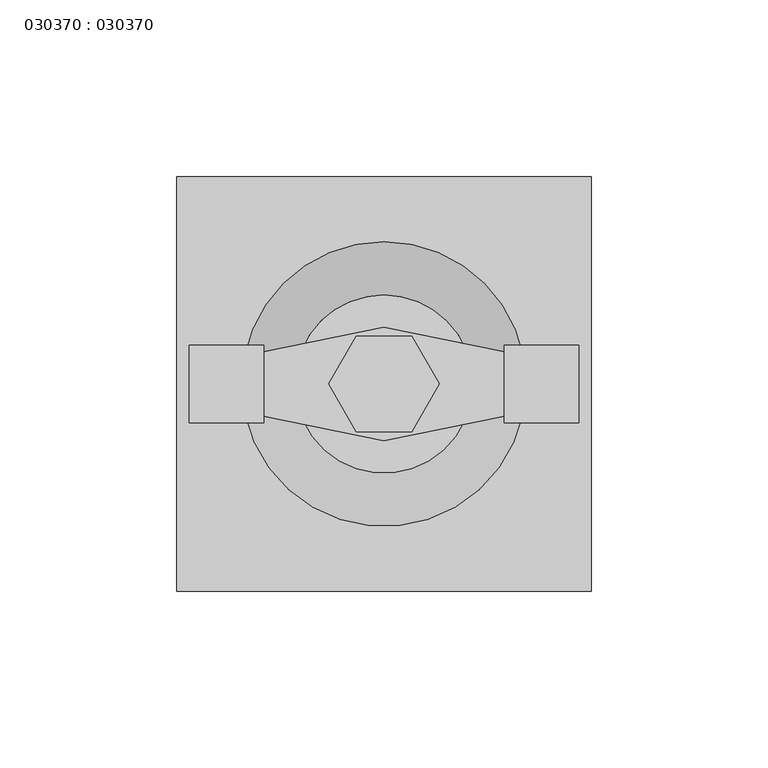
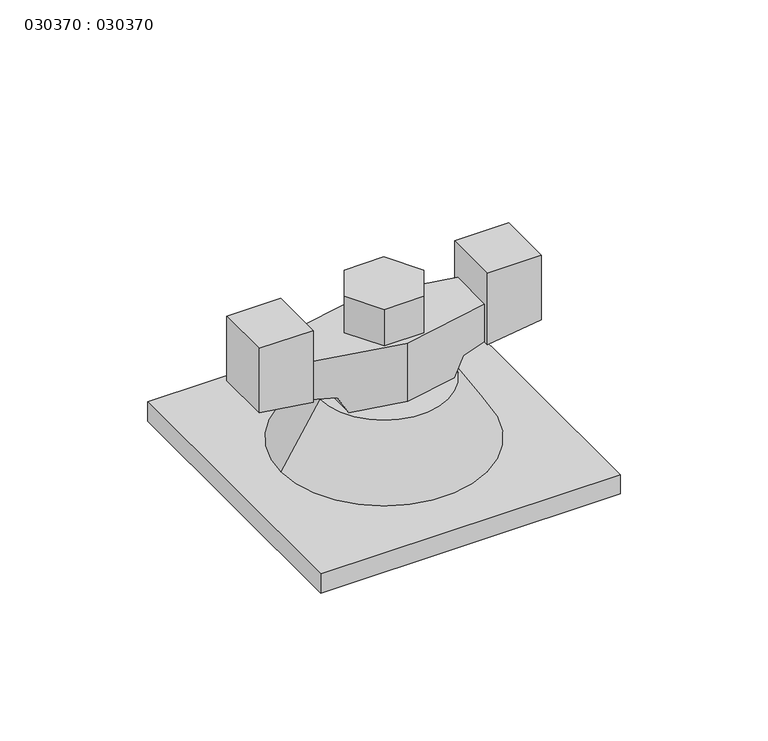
"""IFC4 building model written with IfcOpenShell, lengths in millimetres: proxy geometry, 030370 : 030370."""

import ifcopenshell
import ifcopenshell.guid

model = None  # the IFC model being written
_history = None  # IfcOwnerHistory: only IFC2X3 demands one
_inside = {}  # id of a spatial element -> (the spatial element, [elements in it])
_under = {}  # id of a project, library or spatial element -> (it, [spatial elements below it])
_declared = {}  # id of a project -> (the project, [libraries it declares])
_typed = {}  # id of a type object -> (the type object, [elements of that type])
_made_of = {}  # id of a material, layer set ... -> (it, [elements and type objects made of it])


def new_model(schema):
    """Start an empty IFC model of exactly this schema.

    Asked for "IFC4X3", IfcOpenShell would pick the latest addendum, in which some entities
    have other attributes; the version numbers below select the first issue.
    IFC2X3 requires an IfcOwnerHistory on every rooted entity: one is made here for all.
    """
    global model, _history
    if schema == "IFC4X3":
        model = ifcopenshell.file(schema_version=(4, 3, 0, 0))
    else:
        model = ifcopenshell.file(schema=schema)
    _inside.clear()
    _under.clear()
    _declared.clear()
    _typed.clear()
    _made_of.clear()
    _history = None
    if model.schema == "IFC2X3":
        org = make("IfcOrganization", Name="unknown")
        user = make(
            "IfcPersonAndOrganization",
            ThePerson=make("IfcPerson", FamilyName="unknown"),
            TheOrganization=org,
        )
        app = make(
            "IfcApplication",
            ApplicationDeveloper=org,
            Version="unknown",
            ApplicationFullName="unknown",
            ApplicationIdentifier="unknown",
        )
        _history = make(
            "IfcOwnerHistory",
            OwningUser=user,
            OwningApplication=app,
            ChangeAction="ADDED",
            CreationDate=0,
        )
    return model


def make(cls, **values):
    """One entity of the class cls with the attributes given. An attribute that is None is left unset."""
    return model.create_entity(
        cls, **{name: value for name, value in values.items() if value is not None}
    )


def rooted(cls, **values):
    """An entity with a GlobalId (a new one), such as an element, a storey or a relation."""
    return make(cls, GlobalId=ifcopenshell.guid.new(), OwnerHistory=_history, **values)


def si_unit(unit_type, name, prefix=None):
    """IfcSIUnit, for example si_unit("LENGTHUNIT", "METRE", prefix="MILLI")."""
    return make("IfcSIUnit", UnitType=unit_type, Prefix=prefix, Name=name)


def assignment(units):
    """IfcUnitAssignment: the units of a project."""
    return None if units is None else make("IfcUnitAssignment", Units=units)


def point(xyz):
    """IfcCartesianPoint."""
    return None if xyz is None else make("IfcCartesianPoint", Coordinates=xyz)


def direction(xyz):
    """IfcDirection."""
    return None if xyz is None else make("IfcDirection", DirectionRatios=xyz)


def frame(location, z_axis=None, x_axis=None):
    """IfcAxis2Placement3D, a coordinate frame: its origin and axes. An axis left out is left unset."""
    return make(
        "IfcAxis2Placement3D",
        Location=point(location),
        Axis=direction(z_axis),
        RefDirection=direction(x_axis),
    )


def origin():
    """The frame at (0, 0, 0) with its axes left unset."""
    return frame((0.0, 0.0, 0.0))


def place(relative_to, where):
    """IfcLocalPlacement: puts the frame where relative to a parent placement (None: the world)."""
    return make(
        "IfcLocalPlacement", PlacementRelTo=relative_to, RelativePlacement=where
    )


def context(
    kind, dimensions, precision=None, world=None, true_north=None, identifier=None
):
    """IfcGeometricRepresentationContext, for example the 3D "Model" context."""
    return make(
        "IfcGeometricRepresentationContext",
        ContextIdentifier=identifier,
        ContextType=kind,
        CoordinateSpaceDimension=dimensions,
        Precision=precision,
        WorldCoordinateSystem=world,
        TrueNorth=true_north,
    )


def project(units=None, contexts=None):
    """IfcProject with its units and contexts."""
    return rooted(
        "IfcProject",
        Name="project",
        RepresentationContexts=contexts,
        UnitsInContext=assignment(units),
    )


def spatial(cls, under=None, at=None, **own):
    """A site, building, storey or space (cls), placed at a placement, below another one or the project."""
    s = rooted(cls, ObjectPlacement=at, **own)
    if under is not None:
        _under.setdefault(under.id(), (under, []))[1].append(s)
    return s


def polyline(points):
    """IfcPolyline through the points."""
    return make("IfcPolyline", Points=[point(p) for p in points])


def circle_curve(where, radius):
    """IfcCircle in the frame where."""
    return make("IfcCircle", Position=where, Radius=radius)


def faces_of(points, faces, orient=None, outer=None):
    """IfcFace entities. A face is a list of loops; a loop is a list of indices into points, from 0.

    orient and outer hold one flag for each loop. By default every Orientation is true, the
    first loop of a face is its IfcFaceOuterBound and the others are IfcFaceBound.
    """
    made = []
    for i, loops in enumerate(faces):
        bounds = []
        for j, loop in enumerate(loops):
            is_outer = j == 0 if outer is None else outer[i][j]
            bounds.append(
                make(
                    "IfcFaceOuterBound" if is_outer else "IfcFaceBound",
                    Bound=make("IfcPolyLoop", Polygon=[points[k] for k in loop]),
                    Orientation=True if orient is None else orient[i][j],
                )
            )
        made.append(make("IfcFace", Bounds=bounds))
    return made


def faceted_brep(points, faces, orient=None, outer=None, voids=None):
    """IfcFacetedBrep: a solid bounded by flat faces; with voids (closed shells), ...WithVoids."""
    shared = [point(p) for p in points]
    hull = make("IfcClosedShell", CfsFaces=faces_of(shared, faces, orient, outer))
    if voids is None:
        return make("IfcFacetedBrep", Outer=hull)
    return make(
        "IfcFacetedBrepWithVoids",
        Outer=hull,
        Voids=[
            make(cls, CfsFaces=faces_of(shared, fs, o, b)) for cls, fs, o, b in voids
        ],
    )


def shape(context_of_items, identifier, shape_type, items):
    """IfcShapeRepresentation: the items that make up one representation, for example the "Body"."""
    return make(
        "IfcShapeRepresentation",
        ContextOfItems=context_of_items,
        RepresentationIdentifier=identifier,
        RepresentationType=shape_type,
        Items=items,
    )


def source(mapping_origin, context_of_items, identifier, shape_type, items):
    """IfcRepresentationMap: a shape defined once, which mapped items show again and again."""
    return make(
        "IfcRepresentationMap",
        MappingOrigin=mapping_origin,
        MappedRepresentation=shape(context_of_items, identifier, shape_type, items),
    )


def transform(
    local_origin,
    x_axis=None,
    y_axis=None,
    z_axis=None,
    scale=None,
    scale2=None,
    scale3=None,
    uniform=True,
):
    """IfcCartesianTransformationOperator3D, or its non-uniform kind. x_axis, y_axis, z_axis: its Axis1, 2, 3."""
    if uniform:
        return make(
            "IfcCartesianTransformationOperator3D",
            Axis1=direction(x_axis),
            Axis2=direction(y_axis),
            LocalOrigin=point(local_origin),
            Scale=scale,
            Axis3=direction(z_axis),
        )
    return make(
        "IfcCartesianTransformationOperator3DnonUniform",
        Axis1=direction(x_axis),
        Axis2=direction(y_axis),
        LocalOrigin=point(local_origin),
        Scale=scale,
        Axis3=direction(z_axis),
        Scale2=scale2,
        Scale3=scale3,
    )


def mapped(mapping_source, mapping_target):
    """IfcMappedItem: shows the shape of a source again, moved by a transform."""
    return make(
        "IfcMappedItem", MappingSource=mapping_source, MappingTarget=mapping_target
    )


def made_of(thing, what):
    """Note that an element or type object is made of a material, layer set ...; save() writes the relation."""
    if what is not None:
        _made_of.setdefault(what.id(), (what, []))[1].append(thing)
    return thing


def element(
    cls,
    number,
    at=None,
    inside=None,
    cuts=None,
    type_object=None,
    material=None,
    context=None,
    identifier="Body",
    shape_type=None,
    held_by="IfcProductDefinitionShape",
    body=None,
    shapes=None,
    **own,
):
    """One element of the class cls, such as IfcWall. Its Tag is "e" and its number.

    at: its placement. inside: the storey or other place that contains it. cuts: it is an
    opening in that element (IfcRelVoidsElement). A single representation is given by context,
    identifier, shape_type and body (its items); several are given by shapes. held_by: the class
    of the entity that holds the representations. save() writes the other relations.
    """
    e = rooted(cls, Tag="e%d" % number, ObjectPlacement=at, **own)
    if body is not None:
        shapes = [shape(context, identifier, shape_type, body)]
    if shapes is not None:
        e.Representation = make(held_by, Representations=shapes)
    if inside is not None:
        _inside.setdefault(inside.id(), (inside, []))[1].append(e)
    if cuts is not None:
        rooted(
            "IfcRelVoidsElement", RelatingBuildingElement=cuts, RelatedOpeningElement=e
        )
    if type_object is not None:
        _typed.setdefault(type_object.id(), (type_object, []))[1].append(e)
    return made_of(e, material)


def aggregate(whole, parts):
    """IfcRelAggregates: a whole, such as a stair, and the parts it consists of."""
    return rooted("IfcRelAggregates", RelatingObject=whole, RelatedObjects=parts)


def save(model, path):
    """Write the relations noted so far, then the file.

    IfcRelAggregates (storeys below a building ...), IfcRelContainedInSpatialStructure (elements
    in a storey), IfcRelDefinesByType, IfcRelAssociatesMaterial and IfcRelDeclares: one each for
    every whole, place, type object, material and project.
    """
    for whole, parts in _under.values():
        aggregate(whole, parts)
    for where, things in _inside.values():
        rooted(
            "IfcRelContainedInSpatialStructure",
            RelatedElements=things,
            RelatingStructure=where,
        )
    for kind, things in _typed.values():
        rooted("IfcRelDefinesByType", RelatedObjects=things, RelatingType=kind)
    for what, things in _made_of.values():
        rooted("IfcRelAssociatesMaterial", RelatedObjects=things, RelatingMaterial=what)
    for by, libraries in _declared.values():
        rooted("IfcRelDeclares", RelatingContext=by, RelatedDefinitions=libraries)
    model.write(path)


def plane_surface(at):
    """IfcPlane: the flat surface through the origin of the frame at, square to its z axis."""
    return make("IfcPlane", Position=at)


def revolved_surface(curve, axis_point, axis_direction):
    """IfcSurfaceOfRevolution: the curve turned about the line through axis_point along axis_direction."""
    return make(
        "IfcSurfaceOfRevolution",
        SweptCurve=make("IfcArbitraryOpenProfileDef", ProfileType="CURVE", Curve=curve),
        AxisPosition=make("IfcAxis1Placement", Location=point(axis_point), Axis=direction(axis_direction)),
    )


def advanced_brep(points, edges, surfaces, faces):
    """IfcAdvancedBrep: a solid bounded by faces that lie on surfaces and meet in shared edges.

    An edge is (start, end): straight between two places in points (the first is 0);
    or (start, end, curve); or (start, end, curve, False) where it runs against its curve.
    A face is (place in surfaces, loops), or (place, loops, False) where it looks against
    its surface's normal. A loop lists edges by number (the first is 1), with a minus sign
    where the edge is run from its end to its start. The first loop is the outer one.
    """
    corners = [point(p) for p in points]
    vertices = [make("IfcVertexPoint", VertexGeometry=c) for c in corners]
    made = []
    for start, end, *more in edges:
        made.append(
            make(
                "IfcEdgeCurve",
                EdgeStart=vertices[start],
                EdgeEnd=vertices[end],
                EdgeGeometry=more[0] if more else make("IfcPolyline", Points=[corners[start], corners[end]]),
                SameSense=more[1] if len(more) > 1 else True,
            )
        )
    hull = []
    for where, loops, *sense in faces:
        bounds = []
        for j, loop in enumerate(loops):
            ring = [make("IfcOrientedEdge", EdgeElement=made[abs(k) - 1], Orientation=k > 0) for k in loop]
            bounds.append(
                make(
                    "IfcFaceOuterBound" if j == 0 else "IfcFaceBound",
                    Bound=make("IfcEdgeLoop", EdgeList=ring),
                    Orientation=True,
                )
            )
        hull.append(make("IfcAdvancedFace", Bounds=bounds, FaceSurface=surfaces[where], SameSense=sense[0] if sense else True))
    return make("IfcAdvancedBrep", Outer=make("IfcClosedShell", CfsFaces=hull))


def proxy_030370_030370_bbd11c5f(model_context):
    return source(origin(), model_context, "Body", "SolidModel", [
        faceted_brep([(55.0, 11.0, 71.0), (55.0, -11.0, 71.0), (55.0, -11.0, 44.3654879), (55.0, 11.0, 44.3654879), (34.0, 11.0, 71.0), (34.0, 11.0, 41.4141304), (34.0, -11.0, 71.0), (34.0, -11.0, 41.4141304), (34.0, -9.1028923, 41.4141304), (34.0, -9.1028923, 57.0), (0.0, -16.0, 57.0), (0.0, -16.0, 33.0), (20.5692423, -11.8274036, 33.0), (24.5569602, -11.0184706, 40.0869977), (-34.0, 9.1028923, 41.4141304), (-34.0, 9.1028923, 57.0), (0.0, 16.0, 57.0), (0.0, 16.0, 33.0), (-20.5692423, 11.8274036, 33.0), (-24.5569602, 11.0184706, 40.0869977), (-7.7803722, -13.476, 72.0), (-15.5607445, 0.0, 72.0), (-15.5607445, 0.0, 57.0), (-7.7803722, -13.476, 57.0), (-7.7803722, 13.476, 72.0), (-7.7803722, 13.476, 57.0), (7.7803722, 13.476, 72.0), (7.7803722, 13.476, 57.0), (15.5607445, 0.0, 72.0), (15.5607445, 0.0, 57.0), (7.7803722, -13.476, 72.0), (7.7803722, -13.476, 57.0), (-20.5692423, -11.8274036, 33.0), (-24.5569602, -11.0184706, 40.0869977), (20.5692423, 11.8274036, 33.0), (24.5569602, 11.0184706, 40.0869977), (34.0, 9.1028923, 41.4141304), (-34.0, -9.1028923, 57.0), (34.0, 9.1028923, 57.0), (-34.0, -9.1028923, 41.4141304), (-55.0, -11.0, 44.3654879), (-55.0, 11.0, 44.3654879), (-34.0, 11.0, 41.4141304), (-34.0, -11.0, 41.4141304), (-34.0, -11.0, 71.0), (-55.0, -11.0, 71.0), (-55.0, 11.0, 71.0), (-34.0, 11.0, 71.0)], [[[0, 1, 2, 3]], [[4, 0, 3, 5]], [[1, 6, 7, 2]], [[8, 9, 10, 11, 12, 13]], [[14, 15, 16, 17, 18, 19]], [[20, 21, 22, 23]], [[21, 24, 25, 22]], [[24, 26, 27, 25]], [[26, 28, 29, 27]], [[28, 30, 31, 29]], [[30, 20, 23, 31]], [[21, 20, 30, 28, 26, 24]], [[19, 18, 32, 33]], [[34, 35, 13, 12]], [[18, 17, 34, 12, 11, 32]], [[8, 13, 35, 36, 5, 3, 2, 7]], [[16, 15, 37, 10, 9, 38], [23, 22, 25, 27, 29, 31]], [[38, 9, 8, 7, 6, 4, 5, 36]], [[0, 4, 6, 1]], [[38, 36, 35, 34, 17, 16]], [[37, 39, 33, 32, 11, 10]], [[40, 41, 42, 14, 19, 33, 39, 43]], [[44, 45, 40, 43]], [[45, 46, 41, 40]], [[46, 47, 42, 41]], [[47, 44, 43, 39, 37, 15, 14, 42]], [[46, 45, 44, 47]]]),
        faceted_brep([(-58.5, -58.5, 8.0), (-58.5, 58.5, 8.0), (-58.5, 58.5, 0.0), (-58.5, -58.5, 0.0), (58.5, -58.5, 8.0), (58.5, 58.5, 8.0), (58.5, -58.5, 0.0), (58.5, 58.5, 0.0)], [[[0, 1, 2, 3]], [[1, 0, 4, 5]], [[0, 3, 6, 4]], [[4, 6, 7, 5]], [[2, 1, 5, 7]], [[3, 2, 7, 6]]]),
        advanced_brep(
        [(-40.4461851, 0.0, 8.0), (-25.183363, 0.0, 33.0), (25.183363, 0.0, 33.0), (40.4461851, 0.0, 8.0)],
        [
            (0, 1),
            (1, 2, circle_curve(frame((0.0, 0.0, 33.0), z_axis=(0.0, 0.0, -1.0), x_axis=(-1.0, 0.0, 0.0)), 25.183363)),
            (2, 3),
            (3, 0, circle_curve(frame((0.0, 0.0, 8.0), z_axis=(0.0, 0.0, 1.0), x_axis=(-1.0, 0.0, 0.0)), 40.4461851)),
            (3, 0, circle_curve(frame((0.0, 0.0, 8.0), z_axis=(0.0, 0.0, -1.0), x_axis=(-1.0, 0.0, 0.0)), 40.4461851)),
            (2, 1, circle_curve(frame((0.0, 0.0, 33.0), z_axis=(0.0, 0.0, -1.0), x_axis=(-1.0, 0.0, 0.0)), 25.183363)),
        ],
        [
            revolved_surface(polyline([(-25.183363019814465, 0.0, 33.0), (-40.4461851, 0.0, 8.0)]), (0.0, 0.0, 74.2495194), (0.0, 0.0, -1.0)),
            plane_surface(frame((-20.2230926, 0.0, 8.0), z_axis=(0.0, 0.0, -1.0), x_axis=(0.0, 1.0, 0.0))),
            plane_surface(frame((-12.5916815, 0.0, 33.0), z_axis=(0.0, 0.0, 1.0), x_axis=(0.0, -1.0, 0.0))),
        ],
        [
            (0, [[1, 2, 3, 4]]),
            (1, [[5, -4]]),
            (0, [[-1, -5, -3, 6]]),
            (2, [[-6, -2]]),
        ],
    ),
    ])


if __name__ == "__main__":
    model = new_model("IFC4")
    model_context = context("Model", 3, world=origin())
    ifc_project = project(units=[si_unit("LENGTHUNIT", "METRE", prefix="MILLI")], contexts=[model_context])
    site = spatial("IfcSite", under=ifc_project)
    building = spatial("IfcBuilding", under=site)
    placement = place(None, origin())
    proxy_030370_030370_shape = proxy_030370_030370_bbd11c5f(model_context)
    element("IfcBuildingElementProxy", 1, Name="030370 : 030370", ObjectType="030370 : 030370", at=placement, inside=building, context=model_context, shape_type="MappedRepresentation", body=[
        mapped(proxy_030370_030370_shape, transform((0.0, 0.0, 0.0), x_axis=(1.0, 0.0, 0.0), y_axis=(0.0, 1.0, 0.0), z_axis=(0.0, 0.0, 1.0))),
    ])
    save(model, "model.ifc")
